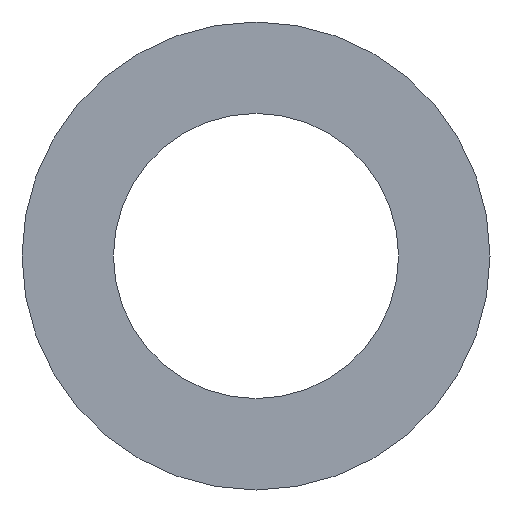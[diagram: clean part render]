
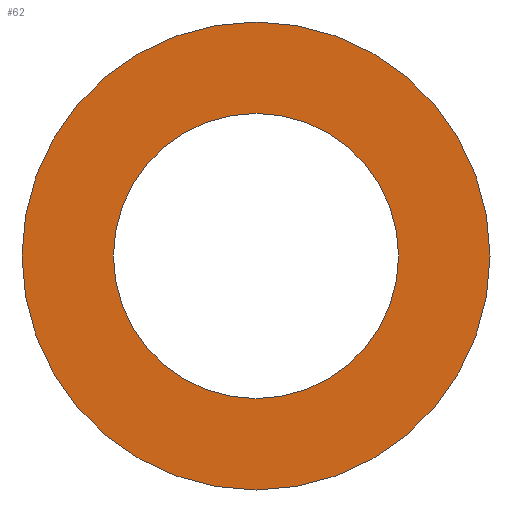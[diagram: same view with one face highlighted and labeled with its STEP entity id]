
A CAD part, front view. The second image highlights one B-rep face of the part: STEP entity #62.
In plain terms, the highlighted planar face has unit normal (0, -1, 0).
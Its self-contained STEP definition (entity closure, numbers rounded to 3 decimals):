
#20=PLANE('',#83);
#26=ORIENTED_EDGE('',*,*,#30,.T.);
#27=ORIENTED_EDGE('',*,*,#32,.F.);
#30=EDGE_CURVE('',#34,#34,#38,.T.);
#32=EDGE_CURVE('',#36,#36,#40,.T.);
#34=VERTEX_POINT('',#106);
#36=VERTEX_POINT('',#111);
#38=CIRCLE('',#78,58.5);
#40=CIRCLE('',#81,96.);
#46=EDGE_LOOP('',(#26));
#47=EDGE_LOOP('',(#27));
#54=FACE_BOUND('',#46,.T.);
#55=FACE_BOUND('',#47,.T.);
#62=ADVANCED_FACE('',(#54,#55),#20,.F.);
#78=AXIS2_PLACEMENT_3D('',#105,#89,#90);
#81=AXIS2_PLACEMENT_3D('',#110,#95,#96);
#83=AXIS2_PLACEMENT_3D('',#114,#99,#100);
#89=DIRECTION('',(0.,1.,0.));
#90=DIRECTION('',(1.,0.,0.));
#95=DIRECTION('',(0.,1.,0.));
#96=DIRECTION('',(1.,0.,0.));
#99=DIRECTION('',(0.,1.,0.));
#100=DIRECTION('',(0.,0.,1.));
#105=CARTESIAN_POINT('',(0.,-1.5,0.));
#106=CARTESIAN_POINT('',(58.5,-1.5,0.));
#110=CARTESIAN_POINT('',(0.,-1.5,0.));
#111=CARTESIAN_POINT('',(96.,-1.5,0.));
#114=CARTESIAN_POINT('',(0.,-1.5,0.));
